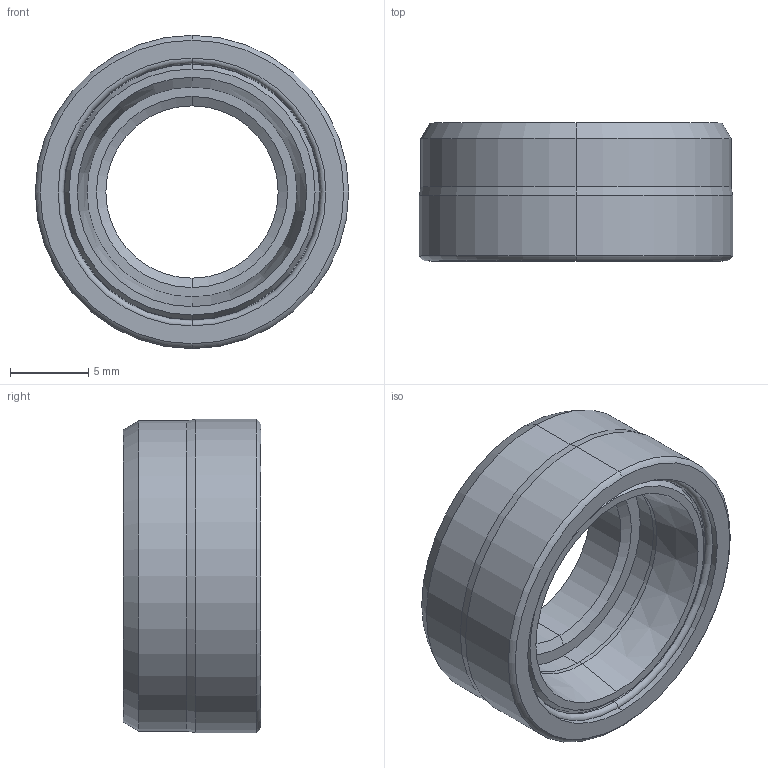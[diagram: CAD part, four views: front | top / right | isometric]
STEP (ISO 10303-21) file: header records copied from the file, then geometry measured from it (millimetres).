
FILE_DESCRIPTION (( 'STEP AP203' ), '1' );
FILE_NAME ('VXF0080-B.STEP', '2014-11-25T04:56:57', ( '0393' ), ( 'Hewlett-Packard Company' ), 'SwSTEP 2.0', 'SolidWorks 2013', '' );
FILE_SCHEMA (( 'CONFIG_CONTROL_DESIGN' ));
Length unit declared in the file: millimetre
Products named in the file (1): VXF0080-B
Bounding box: 20 x 8.8 x 20 mm (x, y, z)
Volume: 1525.9 mm3; surface area: 1335 mm2
Topology: 1 solids, 1 shells, 36 faces, 72 edges, 42 vertices
Faces by surface type: cone 12, cylinder 12, torus 6, plane 6
Entity records: 1021 total; most frequent: DIRECTION 194, CARTESIAN_POINT 151, ORIENTED_EDGE 144, AXIS2_PLACEMENT_3D 85, EDGE_CURVE 72, CIRCLE 48, EDGE_LOOP 42, VERTEX_POINT 42
